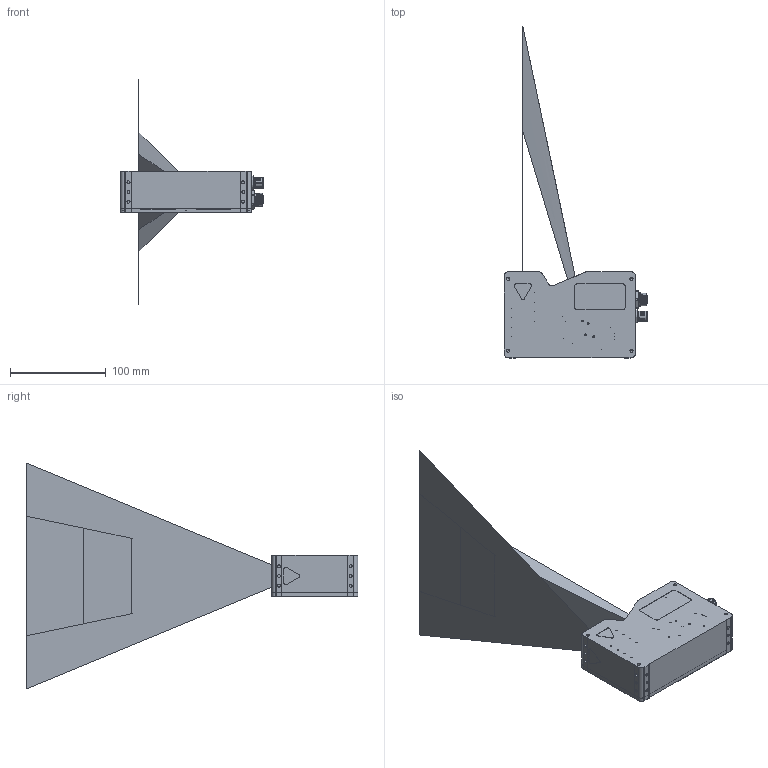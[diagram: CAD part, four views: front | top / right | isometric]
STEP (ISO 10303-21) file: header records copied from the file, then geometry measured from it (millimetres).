
FILE_DESCRIPTION(/* description */ (''),/* implementation_level */ '2;1');
FILE_NAME(/* name */ 'C6-S7-2040-CS-14-100-197-SX-1G-XXX-XX_Public.iam.stp',/* time_stamp */ '2025-06-10T10:12:49+02:00',/* author */ ('AT'),/* organization */ ('Automation Technology GmbH'),/* preprocessor_version */ 'ST-DEVELOPER v20',/* originating_system */ 'Autodesk Inventor 2024',/* authorisation */ '');
FILE_SCHEMA (('AUTOMOTIVE_DESIGN { 1 0 10303 214 3 1 1 }'));
Products named in the file (20): C6-S7-2040-CS-14-100-197-SX-1G-XXX-XX_Public; Glasscheibe33x1; EO: 48-924; SACC-DSI-MS-17CON-M12 SCO SH_1437119-01; SACC-DSI-MS-17CON-M12 SCO SH_1437119_Stecker; SACC-DSI-MS-17CON-M12 SCO SH_1437119_Mutter; SACC-DSI-MS-17CON-M12 SCO SH_1437119_Pins; SACC-DSI-MS-17CON-M12 SCO SH_1437119_Kunststoffeinsatz; SACC-DSI-FS-8CON-L180_SCO SH_1553860-01; SACC-DSI-FS-8CON-L180_SCO SH_1553860_Stecker; SACC-DSI-FS-8CON-L180_SCO SH_1553860_Mutter; SACC-DSI-FS-8CON-L180_SCO SH_1553860_Kunststoffeinsatz; 1292.6001; Screw GB/T 2672 M2,5 x 4; Screw GB/T 2672 M2,5 x 6; 202202010-028; 202202010-002; 202202010-009; 202202010-010; C6-S7-2040-CS-14-100-197-SX-1G-XXX-XX_Strahlengang
Assembly tree (36 placements, depth 3):
  C6-S7-2040-CS-14-100-197-SX-1G-XXX-XX_Public
    1292.6001  x5
    Glasscheibe33x1
    EO: 48-924
    SACC-DSI-MS-17CON-M12 SCO SH_1437119-01
      SACC-DSI-MS-17CON-M12 SCO SH_1437119_Stecker
      SACC-DSI-MS-17CON-M12 SCO SH_1437119_Mutter
      SACC-DSI-MS-17CON-M12 SCO SH_1437119_Pins
      SACC-DSI-MS-17CON-M12 SCO SH_1437119_Kunststoffeinsatz
    SACC-DSI-FS-8CON-L180_SCO SH_1553860-01
      SACC-DSI-FS-8CON-L180_SCO SH_1553860_Stecker
      SACC-DSI-FS-8CON-L180_SCO SH_1553860_Mutter
      SACC-DSI-FS-8CON-L180_SCO SH_1553860_Kunststoffeinsatz
    Screw GB/T 2672 M2,5 x 4  x8
    Screw GB/T 2672 M2,5 x 6  x7
    202202010-028
    202202010-002
    202202010-009
    202202010-010
    C6-S7-2040-CS-14-100-197-SX-1G-XXX-XX_Strahlengang
Bounding box: 150.15 x 347.1 x 236.39 mm (x, y, z)
Volume: 397191.8 mm3; surface area: 185980.9 mm2
Topology: 51 solids, 52 shells, 2268 faces, 5438 edges, 3385 vertices
Faces by surface type: cylinder 950, plane 880, bspline 181, cone 123, torus 85, sphere 49
Full cylindrical faces by diameter (mm): 0.217 x1, 0.6 x25, 0.63 x34, 0.9 x8, 1 x10, 1.1 x17, 1.2 x17, 1.5 x5, 1.567 x7, 1.6 x5, 2 x15, 2.013 x36, 2.208 x15, 2.4 x15, 2.5 x15, 2.6 x12, 2.8 x8, 3 x4, 3.242 x12, 5 x15, 5.5 x15, 7.7 x1, 8.25 x2, 8.3 x1, 8.7 x1, 10.5 x1, 10.7 x3, 10.917 x2, 12 x1, 12.2 x1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
Entity records: 86605 total; most frequent: CARTESIAN_POINT 45537, ORIENTED_EDGE 8184, DIRECTION 8085, EDGE_CURVE 4094, AXIS2_PLACEMENT_3D 2963, VERTEX_POINT 2702, LINE 2159, VECTOR 2159
